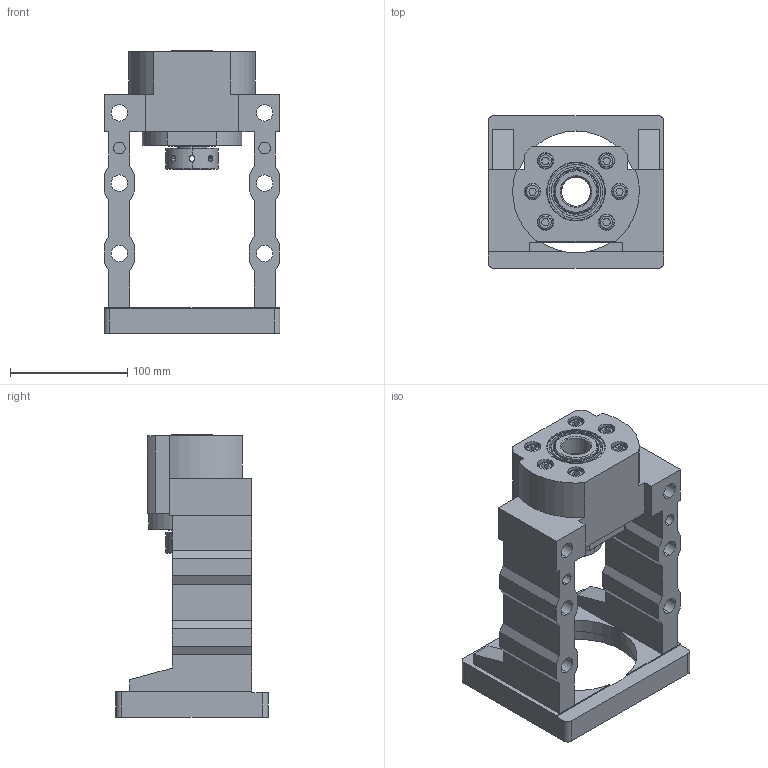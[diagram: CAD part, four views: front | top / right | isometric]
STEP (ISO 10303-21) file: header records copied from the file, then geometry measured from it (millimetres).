
FILE_DESCRIPTION (( 'STEP AP203' ), '1' );
FILE_NAME ('MBCK25-G²Õ¦X¥ó.STEP', '2022-10-20T02:58:24', ( '' ), ( '' ), 'SwSTEP 2.0', 'SolidWorks 2018', '' );
FILE_SCHEMA (( 'CONFIG_CONTROL_DESIGN' ));
Length unit declared in the file: millimetre
Products named in the file (1): MBCK25-G組合件
Bounding box: 150 x 130 x 241 mm (x, y, z)
Surface area: 198104.3 mm2 (no closed solid volume)
Topology: 0 solids, 22 shells, 348 faces, 967 edges, 637 vertices
Faces by surface type: plane 134, cylinder 118, cone 62, torus 26, bspline 8
Entity records: 20459 total; most frequent: CARTESIAN_POINT 11545, DIRECTION 1872, ORIENTED_EDGE 1705, EDGE_CURVE 959, AXIS2_PLACEMENT_3D 706, VERTEX_POINT 637, VECTOR 460, LINE 460
